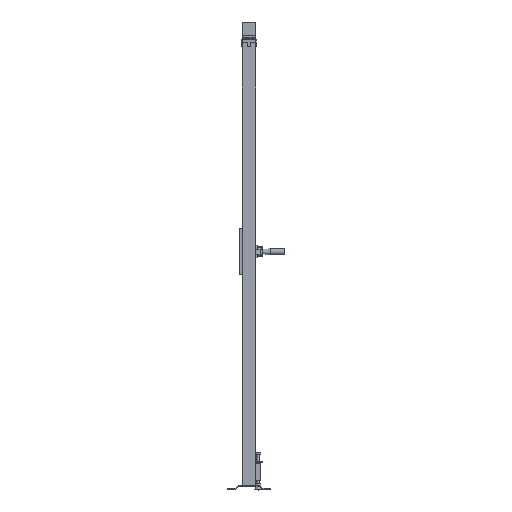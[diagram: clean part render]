
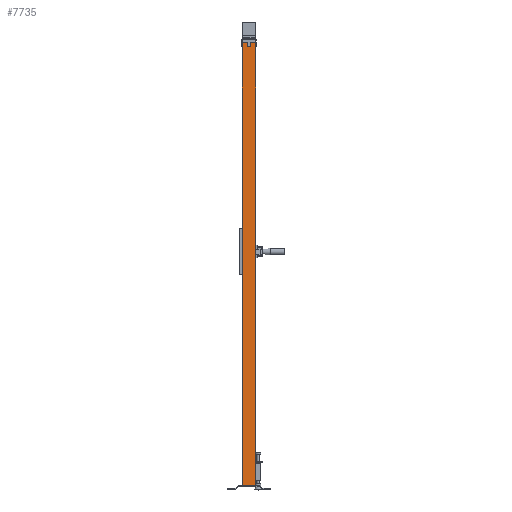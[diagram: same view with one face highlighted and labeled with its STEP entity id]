
A CAD part, left-side view. The second image highlights one B-rep face of the part: STEP entity #7735.
In plain terms, the highlighted planar face has unit normal (-1, 0, 0).
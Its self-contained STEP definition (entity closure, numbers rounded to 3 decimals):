
#836=FACE_OUTER_BOUND('',#1232,.T.);
#1232=EDGE_LOOP('',(#5756,#5757,#5758,#5759));
#1792=LINE('',#11204,#2777);
#1796=LINE('',#11213,#2781);
#1798=LINE('',#11216,#2783);
#1800=LINE('',#11219,#2785);
#2777=VECTOR('',#9040,1.);
#2781=VECTOR('',#9046,1.);
#2783=VECTOR('',#9050,1.);
#2785=VECTOR('',#9054,1.);
#3696=VERTEX_POINT('',#11201);
#3697=VERTEX_POINT('',#11203);
#3700=VERTEX_POINT('',#11210);
#3701=VERTEX_POINT('',#11212);
#4495=EDGE_CURVE('',#3696,#3697,#1792,.T.);
#4499=EDGE_CURVE('',#3700,#3701,#1796,.T.);
#4501=EDGE_CURVE('',#3697,#3700,#1798,.T.);
#4503=EDGE_CURVE('',#3696,#3701,#1800,.T.);
#5756=ORIENTED_EDGE('',*,*,#4503,.T.);
#5757=ORIENTED_EDGE('',*,*,#4499,.F.);
#5758=ORIENTED_EDGE('',*,*,#4501,.F.);
#5759=ORIENTED_EDGE('',*,*,#4495,.F.);
#7386=PLANE('',#8185);
#7735=ADVANCED_FACE('',(#836),#7386,.F.);
#8185=AXIS2_PLACEMENT_3D('',#11218,#9052,#9053);
#9040=DIRECTION('',(0.,-1.,0.));
#9046=DIRECTION('',(0.,1.,0.));
#9050=DIRECTION('',(0.,0.,-1.));
#9052=DIRECTION('center_axis',(1.,0.,0.));
#9053=DIRECTION('ref_axis',(0.,0.,-1.));
#9054=DIRECTION('',(0.,0.,-1.));
#11201=CARTESIAN_POINT('',(-30.,30.,2020.));
#11203=CARTESIAN_POINT('',(-30.,-30.,2020.));
#11204=CARTESIAN_POINT('',(-30.,0.,2020.));
#11210=CARTESIAN_POINT('',(-30.,-30.,20.));
#11212=CARTESIAN_POINT('',(-30.,30.,20.));
#11213=CARTESIAN_POINT('',(-30.,0.,20.));
#11216=CARTESIAN_POINT('',(-30.,-30.,1020.));
#11218=CARTESIAN_POINT('Origin',(-30.,0.,
1020.));
#11219=CARTESIAN_POINT('',(-30.,30.,1020.));
